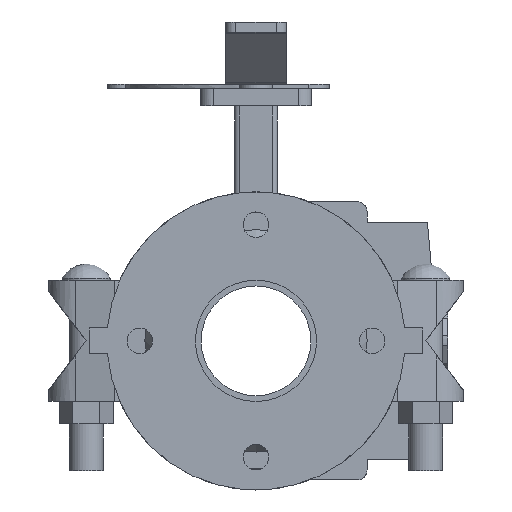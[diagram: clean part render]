
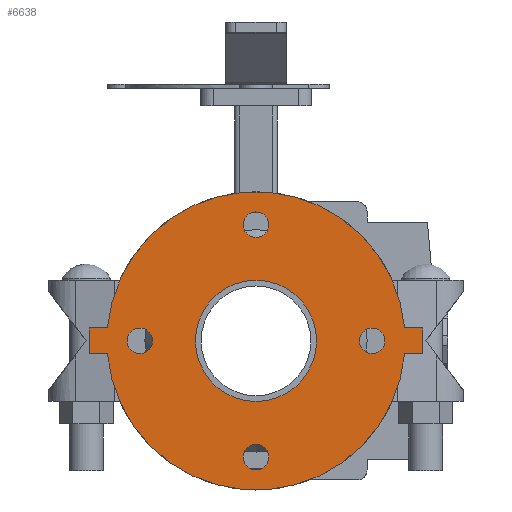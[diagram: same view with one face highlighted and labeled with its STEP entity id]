
A CAD part, front view. The second image highlights one B-rep face of the part: STEP entity #6638.
In plain terms, the highlighted planar face has unit normal (0, -1, 0) as drawn and (0, 0, -1) by its records, which use the part's own axes.
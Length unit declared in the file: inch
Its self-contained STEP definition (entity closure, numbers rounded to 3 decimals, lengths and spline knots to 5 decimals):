
#155=FACE_BOUND('',#814,.T.);
#156=FACE_BOUND('',#815,.T.);
#157=FACE_BOUND('',#816,.T.);
#158=FACE_BOUND('',#817,.T.);
#159=FACE_BOUND('',#818,.T.);
#236=PLANE('',#7191);
#450=FACE_OUTER_BOUND('',#813,.T.);
#813=EDGE_LOOP('',(#4294,#4295,#4296,#4297,#4298,#4299,#4300,#4301));
#814=EDGE_LOOP('',(#4302));
#815=EDGE_LOOP('',(#4303));
#816=EDGE_LOOP('',(#4304));
#817=EDGE_LOOP('',(#4305));
#818=EDGE_LOOP('',(#4306));
#1240=LINE('',#10053,#1755);
#1243=LINE('',#10059,#1758);
#1246=LINE('',#10064,#1761);
#1248=LINE('',#10069,#1763);
#1252=LINE('',#10076,#1767);
#1254=LINE('',#10079,#1769);
#1755=VECTOR('',#7993,0.3937);
#1758=VECTOR('',#7998,0.3937);
#1761=VECTOR('',#8003,0.3937);
#1763=VECTOR('',#8007,0.3937);
#1767=VECTOR('',#8013,0.3937);
#1769=VECTOR('',#8017,0.3937);
#2262=CIRCLE('',#7165,0.315);
#2264=CIRCLE('',#7168,0.315);
#2266=CIRCLE('',#7171,0.315);
#2268=CIRCLE('',#7174,0.315);
#2269=CIRCLE('',#7176,1.5);
#2271=CIRCLE('',#7179,3.69);
#2274=CIRCLE('',#7183,3.69);
#2641=VERTEX_POINT('',#10006);
#2643=VERTEX_POINT('',#10012);
#2645=VERTEX_POINT('',#10018);
#2647=VERTEX_POINT('',#10024);
#2648=VERTEX_POINT('',#10028);
#2650=VERTEX_POINT('',#10034);
#2652=VERTEX_POINT('',#10037);
#2654=VERTEX_POINT('',#10043);
#2657=VERTEX_POINT('',#10048);
#2658=VERTEX_POINT('',#10052);
#2660=VERTEX_POINT('',#10058);
#2662=VERTEX_POINT('',#10067);
#2663=VERTEX_POINT('',#10068);
#3281=EDGE_CURVE('',#2641,#2641,#2262,.T.);
#3284=EDGE_CURVE('',#2643,#2643,#2264,.T.);
#3287=EDGE_CURVE('',#2645,#2645,#2266,.T.);
#3290=EDGE_CURVE('',#2647,#2647,#2268,.T.);
#3291=EDGE_CURVE('',#2648,#2648,#2269,.T.);
#3295=EDGE_CURVE('',#2650,#2652,#2271,.T.);
#3301=EDGE_CURVE('',#2657,#2654,#2274,.T.);
#3302=EDGE_CURVE('',#2652,#2658,#1240,.T.);
#3305=EDGE_CURVE('',#2660,#2657,#1243,.T.);
#3308=EDGE_CURVE('',#2658,#2660,#1246,.T.);
#3310=EDGE_CURVE('',#2662,#2663,#1248,.T.);
#3314=EDGE_CURVE('',#2654,#2662,#1252,.T.);
#3316=EDGE_CURVE('',#2663,#2650,#1254,.T.);
#4294=ORIENTED_EDGE('',*,*,#3316,.F.);
#4295=ORIENTED_EDGE('',*,*,#3310,.F.);
#4296=ORIENTED_EDGE('',*,*,#3314,.F.);
#4297=ORIENTED_EDGE('',*,*,#3301,.F.);
#4298=ORIENTED_EDGE('',*,*,#3305,.F.);
#4299=ORIENTED_EDGE('',*,*,#3308,.F.);
#4300=ORIENTED_EDGE('',*,*,#3302,.F.);
#4301=ORIENTED_EDGE('',*,*,#3295,.F.);
#4302=ORIENTED_EDGE('',*,*,#3281,.T.);
#4303=ORIENTED_EDGE('',*,*,#3284,.T.);
#4304=ORIENTED_EDGE('',*,*,#3287,.T.);
#4305=ORIENTED_EDGE('',*,*,#3290,.T.);
#4306=ORIENTED_EDGE('',*,*,#3291,.T.);
#6638=ADVANCED_FACE('',(#450,#155,#156,#157,#158,#159),#236,.F.);
#7165=AXIS2_PLACEMENT_3D('',#10008,#7945,#7946);
#7168=AXIS2_PLACEMENT_3D('',#10014,#7952,#7953);
#7171=AXIS2_PLACEMENT_3D('',#10020,#7959,#7960);
#7174=AXIS2_PLACEMENT_3D('',#10026,#7966,#7967);
#7176=AXIS2_PLACEMENT_3D('',#10029,#7970,#7971);
#7179=AXIS2_PLACEMENT_3D('',#10038,#7978,#7979);
#7183=AXIS2_PLACEMENT_3D('',#10050,#7989,#7990);
#7191=AXIS2_PLACEMENT_3D('',#10082,#8021,#8022);
#7945=DIRECTION('center_axis',(0.,0.,1.));
#7946=DIRECTION('ref_axis',(-1.,0.,0.));
#7952=DIRECTION('center_axis',(0.,0.,1.));
#7953=DIRECTION('ref_axis',(0.,1.,0.));
#7959=DIRECTION('center_axis',(0.,0.,1.));
#7960=DIRECTION('ref_axis',(1.,0.,0.));
#7966=DIRECTION('center_axis',(0.,0.,1.));
#7967=DIRECTION('ref_axis',(0.,-1.,0.));
#7970=DIRECTION('center_axis',(0.,0.,1.));
#7971=DIRECTION('ref_axis',(0.,-1.,0.));
#7978=DIRECTION('center_axis',(0.,0.,1.));
#7979=DIRECTION('ref_axis',(0.,1.,0.));
#7989=DIRECTION('center_axis',(0.,0.,1.));
#7990=DIRECTION('ref_axis',(0.,1.,0.));
#7993=DIRECTION('',(0.,-1.,0.));
#7998=DIRECTION('',(0.,1.,0.));
#8003=DIRECTION('',(1.,0.,0.));
#8007=DIRECTION('',(-1.,0.,0.));
#8013=DIRECTION('',(0.,1.,0.));
#8017=DIRECTION('',(0.,-1.,0.));
#8021=DIRECTION('center_axis',(0.,0.,1.));
#8022=DIRECTION('ref_axis',(0.,1.,0.));
#10006=CARTESIAN_POINT('',(0.315,2.875,0.));
#10008=CARTESIAN_POINT('Origin',(0.,2.875,0.));
#10012=CARTESIAN_POINT('',(2.875,-0.315,0.));
#10014=CARTESIAN_POINT('Origin',(2.875,0.,0.));
#10018=CARTESIAN_POINT('',(-0.315,-2.875,0.));
#10020=CARTESIAN_POINT('Origin',(0.,-2.875,0.));
#10024=CARTESIAN_POINT('',(-2.875,0.315,0.));
#10026=CARTESIAN_POINT('Origin',(-2.875,0.,0.));
#10028=CARTESIAN_POINT('',(0.,1.5,0.));
#10029=CARTESIAN_POINT('Origin',(0.,0.,0.));
#10034=CARTESIAN_POINT('',(-0.32,3.6761,0.));
#10037=CARTESIAN_POINT('',(-0.32,-3.6761,0.));
#10038=CARTESIAN_POINT('Origin',(0.,0.,0.));
#10043=CARTESIAN_POINT('',(0.32,3.6761,0.));
#10048=CARTESIAN_POINT('',(0.32,-3.6761,0.));
#10050=CARTESIAN_POINT('Origin',(0.,0.,0.));
#10052=CARTESIAN_POINT('',(-0.32,-4.125,0.));
#10053=CARTESIAN_POINT('',(-0.32,-3.6761,0.));
#10058=CARTESIAN_POINT('',(0.32,-4.125,0.));
#10059=CARTESIAN_POINT('',(0.32,-4.125,0.));
#10064=CARTESIAN_POINT('',(-0.32,-4.125,0.));
#10067=CARTESIAN_POINT('',(0.32,4.125,0.));
#10068=CARTESIAN_POINT('',(-0.32,4.125,0.));
#10069=CARTESIAN_POINT('',(0.32,4.125,0.));
#10076=CARTESIAN_POINT('',(0.32,3.6761,0.));
#10079=CARTESIAN_POINT('',(-0.32,4.125,0.));
#10082=CARTESIAN_POINT('Origin',(0.,3.92048,
0.));
